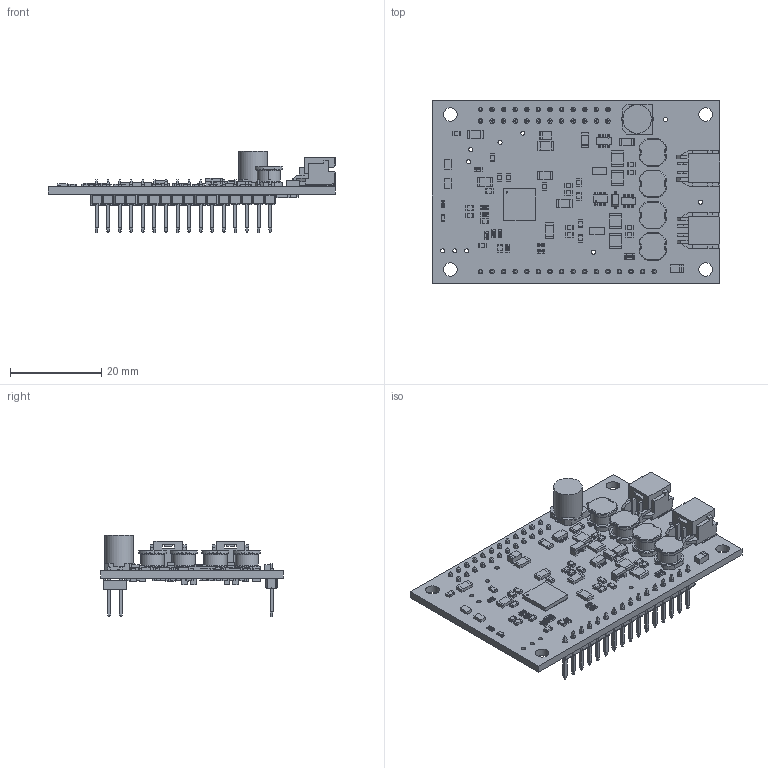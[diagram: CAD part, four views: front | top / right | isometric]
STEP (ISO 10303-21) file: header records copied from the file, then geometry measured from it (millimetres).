
FILE_DESCRIPTION(('Open CASCADE Model'),'2;1');
FILE_NAME('Open CASCADE Shape Model','2024-02-18T01:35:51',('Author'),( 'Open CASCADE'),'Open CASCADE STEP processor 6.8','Open CASCADE 6.8' ,'Unknown');
FILE_SCHEMA(('AUTOMOTIVE_DESIGN { 1 0 10303 214 1 1 1 1 }'));
Length unit declared in the file: millimetre
Products named in the file (201): PCB; Board; Open CASCADE STEP translator 6.8 1.1.1; Q3; SOIC_DV-T1-GE3_VIS; Q5; TSOP_EV-T1_GE3_VIS; R27; Resistor_0603_Text; Pin1Body; Pin2Body; CeramicBody; CoatingBody; Text1Body; Text2Body; Text3Body; Text4Body; R26; Resistor_0805_Text; D4; MMSZ5245B-E3-08; Body; FilletPinL; FilletPinR; J6; 5023520200_RGB255; Open CASCADE STEP translator 6.8 1.7.1.1; Open CASCADE STEP translator 6.8 1.7.1.2; J5; C2; 1920320520; Extruded; 1920320760; C47; 1920320800; 1920321120; C49; 1861247160; 1861256160; C8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
Assembly tree (393 placements, depth 4):
  PCB
    Board
      Open CASCADE STEP translator 6.8 1.1.1
    Q3
      SOIC_DV-T1-GE3_VIS
    Q5
      TSOP_EV-T1_GE3_VIS
    R27
      Resistor_0603_Text
        Pin1Body
        Pin2Body
        CeramicBody
        CoatingBody
        Text1Body
        Text2Body
        Text3Body
        Text4Body
    R26
      Resistor_0805_Text
        Pin1Body
        Pin2Body
        CeramicBody
        CoatingBody
        Text1Body
        Text2Body
        Text3Body
        Text4Body
    D4
      MMSZ5245B-E3-08
        Body
        FilletPinL
        FilletPinR
    J6
      5023520200_RGB255
        Open CASCADE STEP translator 6.8 1.7.1.1
        Open CASCADE STEP translator 6.8 1.7.1.2
    J5
      5023520200_RGB255
        Open CASCADE STEP translator 6.8 1.7.1.1
        Open CASCADE STEP translator 6.8 1.7.1.2
    C2
      1920320520  x2
        Extruded
      1920320760
        Extruded
    C47
      1920320800  x2
        Extruded
      1920321120
        Extruded
    C49
      1861247160
        Extruded
      1861256160  x2
        Extruded
    C8
      2089867696
        Extruded
      2089874056  x2
        Extruded
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Bounding box: 63.13 x 40 x 17.82 mm (x, y, z)
Volume: 5953.6 mm3; surface area: 11416.4 mm2
Topology: 442 solids, 486 shells, 7635 faces, 19107 edges, 12584 vertices
Faces by surface type: plane 5846, extrusion 1084, cylinder 531, torus 88, bspline 38, cone 32, sphere 12, revolution 4
Full cylindrical faces by diameter (mm): 0.05 x92, 0.085 x3, 0.351 x1, 0.9 x12, 1 x40, 3 x4, 6.269 x1
Entity records: 126464 total; most frequent: CARTESIAN_POINT 21831, ORIENTED_EDGE 17618, DIRECTION 17009, EDGE_CURVE 8915, VECTOR 7971, LINE 7839, VERTEX_POINT 5767, AXIS2_PLACEMENT_3D 4517
